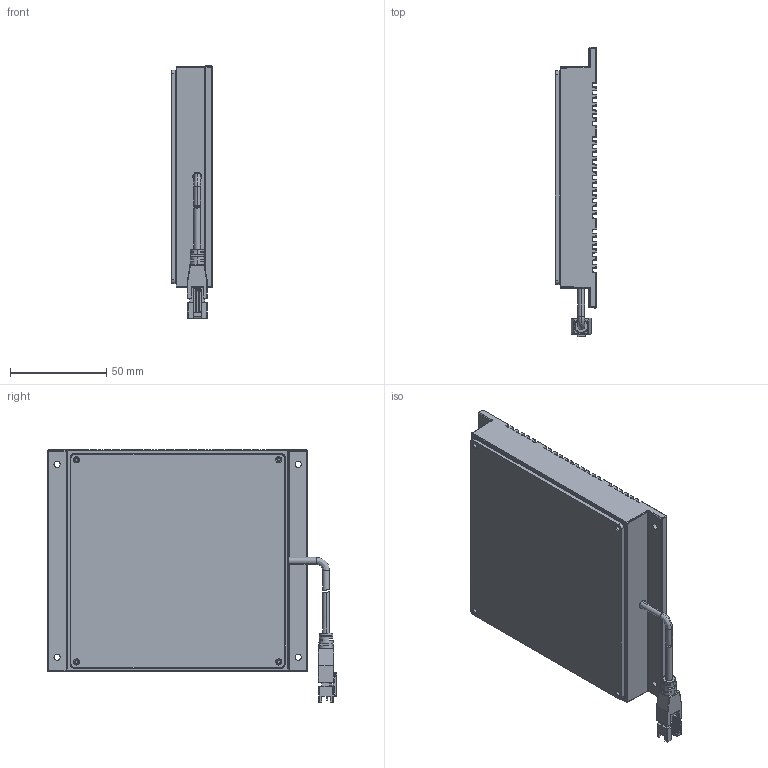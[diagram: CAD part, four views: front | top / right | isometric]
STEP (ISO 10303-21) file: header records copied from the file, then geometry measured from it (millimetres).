
FILE_DESCRIPTION (( 'STEP AP214' ), '1' );
FILE_NAME ('CST-PHFS100100-蚾饜极.STEP', '2022-05-26T01:45:58', ( '' ), ( '' ), 'SwSTEP 2.0', 'SolidWorks 2018', '' );
FILE_SCHEMA (( 'AUTOMOTIVE_DESIGN' ));
Length unit declared in the file: millimetre
Products named in the file (2): CST-PHFS100100-蚾饜极
Bounding box: 21.44 x 149.86 x 130.72 mm (x, y, z)
Surface area: 177486.4 mm2 (no closed solid volume)
Topology: 0 solids, 8 shells, 1659 faces, 4343 edges, 2276 vertices
Faces by surface type: cylinder 704, bspline 595, plane 332, cone 20, torus 6, sphere 2
Entity records: 82300 total; most frequent: CARTESIAN_POINT 27687, ORIENTED_EDGE 7771, DIRECTION 7702, EDGE_CURVE 3909, AXIS2_PLACEMENT_3D 3050, VERTEX_POINT 2276, CIRCLE 1984, EDGE_LOOP 1725
